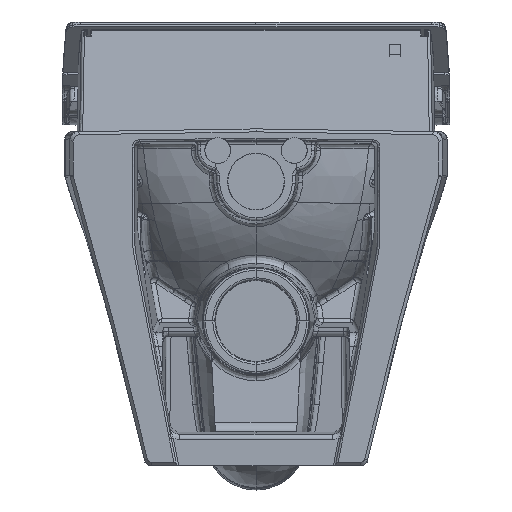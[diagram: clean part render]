
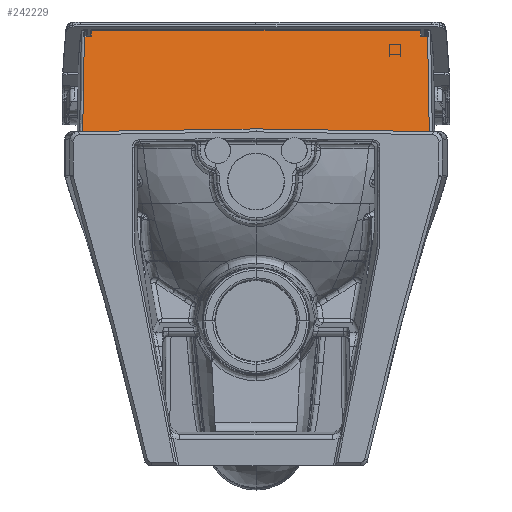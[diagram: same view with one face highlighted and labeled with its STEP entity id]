
A CAD part, left-side view. The second image highlights one B-rep face of the part: STEP entity #242229.
In plain terms, the highlighted planar face has unit normal (-0.987, 0, 0.163) as drawn and (0.987, 0, 0.163) by its records, which use the part's own axes.
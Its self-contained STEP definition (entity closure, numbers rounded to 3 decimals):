
#227975=CARTESIAN_POINT('',(105.207,159.2,67.218));
#227976=VERTEX_POINT('',#227975);
#227994=CARTESIAN_POINT('',(105.207,-159.2,67.218));
#227995=VERTEX_POINT('',#227994);
#228003=CARTESIAN_POINT('',(105.207,159.2,67.218));
#228004=DIRECTION('',(0.0,-1.0,0.0));
#228005=VECTOR('',#228004,318.4);
#228006=LINE('',#228003,#228005);
#228007=EDGE_CURVE('',#227995,#227976,#228006,.F.);
#236944=CARTESIAN_POINT('',(106.201,166.121,61.182));
#236945=VERTEX_POINT('',#236944);
#236953=CARTESIAN_POINT('',(121.391,167.707,-31.02));
#236954=VERTEX_POINT('',#236953);
#236955=CARTESIAN_POINT('',(106.201,166.121,61.182));
#236956=CARTESIAN_POINT('',(109.239,166.438,42.742));
#236957=CARTESIAN_POINT('',(112.277,166.755,24.301));
#236958=CARTESIAN_POINT('',(115.315,167.072,5.861));
#236959=CARTESIAN_POINT('',(118.353,167.39,-12.58));
#236960=CARTESIAN_POINT('',(121.391,167.707,-31.02));
#236961=B_SPLINE_CURVE_WITH_KNOTS('',5,(#236955,#236956,#236957,#236958,#236959,#236960),.UNSPECIFIED.,.F.,.U.,(6,6),(35.874,129.332),.UNSPECIFIED.);
#236962=EDGE_CURVE('',#236945,#236954,#236961,.T.);
#239338=CARTESIAN_POINT('',(121.391,-167.707,-31.02));
#239339=VERTEX_POINT('',#239338);
#239340=CARTESIAN_POINT('',(106.201,-166.121,61.182));
#239341=VERTEX_POINT('',#239340);
#239342=CARTESIAN_POINT('',(121.391,-167.707,-31.02));
#239343=CARTESIAN_POINT('',(116.328,-167.178,-0.286));
#239344=CARTESIAN_POINT('',(111.265,-166.649,30.448));
#239345=CARTESIAN_POINT('',(106.201,-166.121,61.182));
#239346=B_SPLINE_CURVE_WITH_KNOTS('',3,(#239342,#239343,#239344,#239345),.UNSPECIFIED.,.F.,.U.,(4,4),(27.843,121.301),.UNSPECIFIED.);
#239347=EDGE_CURVE('',#239339,#239341,#239346,.T.);
#242127=CARTESIAN_POINT('',(105.97,-159.2,62.587));
#242128=VERTEX_POINT('',#242127);
#242136=CARTESIAN_POINT('',(105.207,-159.2,67.218));
#242137=DIRECTION('',(0.163,0.0,-0.987));
#242138=VECTOR('',#242137,4.693);
#242139=LINE('',#242136,#242138);
#242140=EDGE_CURVE('',#242128,#227995,#242139,.F.);
#242147=CARTESIAN_POINT('',(121.717,0.,-32.998));
#242148=DIRECTION('',(-0.987,0.,-0.163));
#242149=DIRECTION('',(-0.163,0.0,0.987));
#242150=AXIS2_PLACEMENT_3D('',#242147,#242148,#242149);
#242151=PLANE('',#242150);
#242152=CARTESIAN_POINT('',(105.97,159.2,62.587));
#242153=VERTEX_POINT('',#242152);
#242154=CARTESIAN_POINT('',(106.224,160.7,61.044));
#242155=VERTEX_POINT('',#242154);
#242156=CARTESIAN_POINT('',(105.97,160.7,62.587));
#242157=DIRECTION('',(0.987,0.,0.163));
#242158=DIRECTION('',(0.163,0.,-0.987));
#242159=AXIS2_PLACEMENT_3D('',#242156,#242157,#242158);
#242160=ELLIPSE('',#242159,1.564,1.5);
#242161=EDGE_CURVE('',#242153,#242155,#242160,.T.);
#242162=ORIENTED_EDGE('',*,*,#242161,.F.);
#242163=CARTESIAN_POINT('',(105.207,159.2,67.218));
#242164=DIRECTION('',(0.163,0.,-0.987));
#242165=VECTOR('',#242164,4.693);
#242166=LINE('',#242163,#242165);
#242167=EDGE_CURVE('',#227976,#242153,#242166,.T.);
#242168=ORIENTED_EDGE('',*,*,#242167,.F.);
#242169=ORIENTED_EDGE('',*,*,#228007,.F.);
#242170=ORIENTED_EDGE('',*,*,#242140,.F.);
#242171=CARTESIAN_POINT('',(106.224,-160.7,61.044));
#242172=VERTEX_POINT('',#242171);
#242173=CARTESIAN_POINT('',(106.224,-160.7,61.044));
#242174=CARTESIAN_POINT('',(106.224,-160.405,61.044));
#242175=CARTESIAN_POINT('',(106.209,-160.111,61.136));
#242176=CARTESIAN_POINT('',(106.182,-159.869,61.302));
#242177=CARTESIAN_POINT('',(106.174,-159.801,61.348));
#242178=CARTESIAN_POINT('',(106.165,-159.737,61.401));
#242179=CARTESIAN_POINT('',(106.156,-159.677,61.458));
#242180=CARTESIAN_POINT('',(106.131,-159.519,61.609));
#242181=CARTESIAN_POINT('',(106.1,-159.396,61.794));
#242182=CARTESIAN_POINT('',(106.067,-159.315,61.996));
#242183=CARTESIAN_POINT('',(106.036,-159.239,62.183));
#242184=CARTESIAN_POINT('',(106.003,-159.2,62.385));
#242185=CARTESIAN_POINT('',(105.97,-159.2,62.587));
#242186=B_SPLINE_CURVE_WITH_KNOTS('',3,(#242173,#242174,#242175,#242176,#242177,#242178,#242179,#242180,#242181,#242182,#242183,#242184,#242185),.UNSPECIFIED.,.F.,.U.,(4,3,3,3,4),(0.0,1.255,1.61,2.549,3.426),.UNSPECIFIED.);
#242187=EDGE_CURVE('',#242172,#242128,#242186,.T.);
#242188=ORIENTED_EDGE('',*,*,#242187,.F.);
#242189=CARTESIAN_POINT('',(106.224,-165.5,61.044));
#242190=VERTEX_POINT('',#242189);
#242191=CARTESIAN_POINT('',(106.224,-165.5,61.044));
#242192=DIRECTION('',(0.,1.,0.));
#242193=VECTOR('',#242192,4.8);
#242194=LINE('',#242191,#242193);
#242195=EDGE_CURVE('',#242190,#242172,#242194,.T.);
#242196=ORIENTED_EDGE('',*,*,#242195,.F.);
#242197=CARTESIAN_POINT('',(105.972,-165.503,62.572));
#242198=DIRECTION('',(0.987,0.,0.163));
#242199=DIRECTION('',(0.162,0.028,-0.986));
#242200=AXIS2_PLACEMENT_3D('',#242197,#242198,#242199);
#242201=ELLIPSE('',#242200,1.549,1.492);
#242202=EDGE_CURVE('',#239341,#242190,#242201,.T.);
#242203=ORIENTED_EDGE('',*,*,#242202,.F.);
#242204=ORIENTED_EDGE('',*,*,#239347,.F.);
#242205=CARTESIAN_POINT('',(121.391,167.707,-31.02));
#242206=DIRECTION('',(0.0,-1.0,0.0));
#242207=VECTOR('',#242206,335.415);
#242208=LINE('',#242205,#242207);
#242209=EDGE_CURVE('',#236954,#239339,#242208,.T.);
#242210=ORIENTED_EDGE('',*,*,#242209,.F.);
#242211=ORIENTED_EDGE('',*,*,#236962,.F.);
#242212=CARTESIAN_POINT('',(106.224,165.5,61.044));
#242213=VERTEX_POINT('',#242212);
#242214=CARTESIAN_POINT('',(105.97,165.5,62.585));
#242215=DIRECTION('',(0.987,0.,0.163));
#242216=DIRECTION('',(0.163,-0.003,-0.987));
#242217=AXIS2_PLACEMENT_3D('',#242214,#242215,#242216);
#242218=ELLIPSE('',#242217,1.562,1.499);
#242219=EDGE_CURVE('',#242213,#236945,#242218,.T.);
#242220=ORIENTED_EDGE('',*,*,#242219,.F.);
#242221=CARTESIAN_POINT('',(106.224,160.7,61.044));
#242222=DIRECTION('',(0.,1.,0.));
#242223=VECTOR('',#242222,4.8);
#242224=LINE('',#242221,#242223);
#242225=EDGE_CURVE('',#242155,#242213,#242224,.T.);
#242226=ORIENTED_EDGE('',*,*,#242225,.F.);
#242227=EDGE_LOOP('',(#242162,#242168,#242169,#242170,#242188,#242196,#242203,#242204,#242210,#242211,#242220,#242226));
#242228=FACE_OUTER_BOUND('',#242227,.T.);
#242229=ADVANCED_FACE('',(#242228),#242151,.F.);
